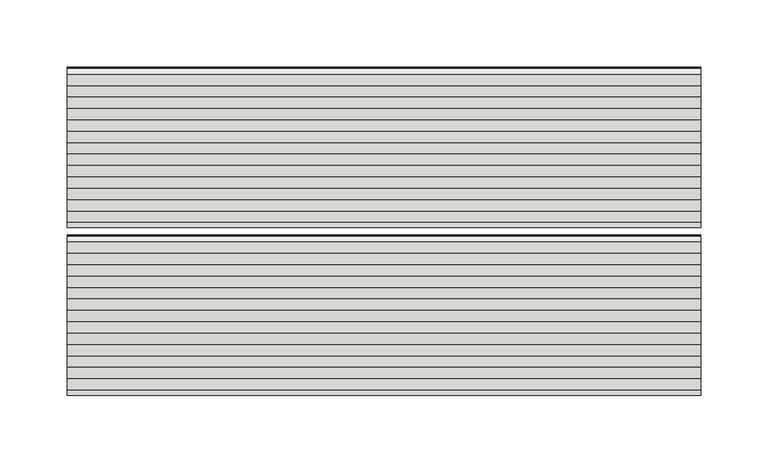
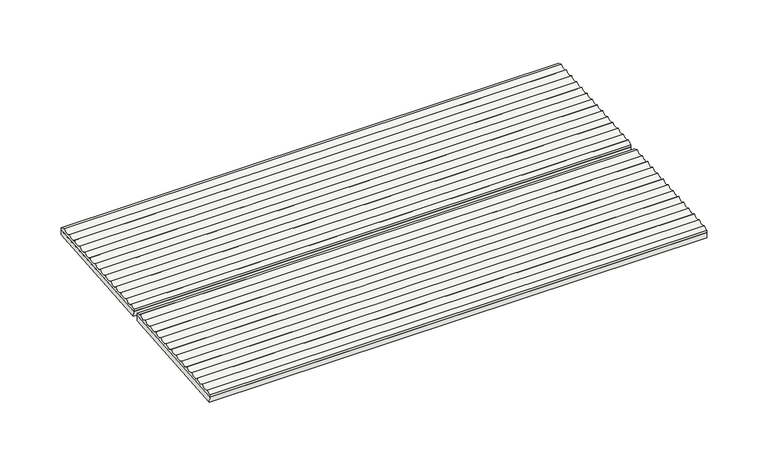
"""IFC4 building model written with IfcOpenShell, lengths in millimetres: slab geometry, ROSA GRES_001 (2 filas) : Piezas 001_Aqua_Blanco_Anti-Slip."""

import ifcopenshell
import ifcopenshell.guid

model = None  # the IFC model being written
_history = None  # IfcOwnerHistory: only IFC2X3 demands one
_inside = {}  # id of a spatial element -> (the spatial element, [elements in it])
_under = {}  # id of a project, library or spatial element -> (it, [spatial elements below it])
_declared = {}  # id of a project -> (the project, [libraries it declares])
_typed = {}  # id of a type object -> (the type object, [elements of that type])
_made_of = {}  # id of a material, layer set ... -> (it, [elements and type objects made of it])


def new_model(schema):
    """Start an empty IFC model of exactly this schema.

    Asked for "IFC4X3", IfcOpenShell would pick the latest addendum, in which some entities
    have other attributes; the version numbers below select the first issue.
    IFC2X3 requires an IfcOwnerHistory on every rooted entity: one is made here for all.
    """
    global model, _history
    if schema == "IFC4X3":
        model = ifcopenshell.file(schema_version=(4, 3, 0, 0))
    else:
        model = ifcopenshell.file(schema=schema)
    _inside.clear()
    _under.clear()
    _declared.clear()
    _typed.clear()
    _made_of.clear()
    _history = None
    if model.schema == "IFC2X3":
        org = make("IfcOrganization", Name="unknown")
        user = make(
            "IfcPersonAndOrganization",
            ThePerson=make("IfcPerson", FamilyName="unknown"),
            TheOrganization=org,
        )
        app = make(
            "IfcApplication",
            ApplicationDeveloper=org,
            Version="unknown",
            ApplicationFullName="unknown",
            ApplicationIdentifier="unknown",
        )
        _history = make(
            "IfcOwnerHistory",
            OwningUser=user,
            OwningApplication=app,
            ChangeAction="ADDED",
            CreationDate=0,
        )
    return model


def make(cls, **values):
    """One entity of the class cls with the attributes given. An attribute that is None is left unset."""
    return model.create_entity(
        cls, **{name: value for name, value in values.items() if value is not None}
    )


def rooted(cls, **values):
    """An entity with a GlobalId (a new one), such as an element, a storey or a relation."""
    return make(cls, GlobalId=ifcopenshell.guid.new(), OwnerHistory=_history, **values)


def si_unit(unit_type, name, prefix=None):
    """IfcSIUnit, for example si_unit("LENGTHUNIT", "METRE", prefix="MILLI")."""
    return make("IfcSIUnit", UnitType=unit_type, Prefix=prefix, Name=name)


def assignment(units):
    """IfcUnitAssignment: the units of a project."""
    return None if units is None else make("IfcUnitAssignment", Units=units)


def point(xyz):
    """IfcCartesianPoint."""
    return None if xyz is None else make("IfcCartesianPoint", Coordinates=xyz)


def direction(xyz):
    """IfcDirection."""
    return None if xyz is None else make("IfcDirection", DirectionRatios=xyz)


def frame(location, z_axis=None, x_axis=None):
    """IfcAxis2Placement3D, a coordinate frame: its origin and axes. An axis left out is left unset."""
    return make(
        "IfcAxis2Placement3D",
        Location=point(location),
        Axis=direction(z_axis),
        RefDirection=direction(x_axis),
    )


def frame_2d(location, x_axis=None):
    """IfcAxis2Placement2D, a coordinate frame in the plane: its origin and x axis."""
    return make(
        "IfcAxis2Placement2D", Location=point(location), RefDirection=direction(x_axis)
    )


def origin():
    """The frame at (0, 0, 0) with its axes left unset."""
    return frame((0.0, 0.0, 0.0))


def place(relative_to, where):
    """IfcLocalPlacement: puts the frame where relative to a parent placement (None: the world)."""
    return make(
        "IfcLocalPlacement", PlacementRelTo=relative_to, RelativePlacement=where
    )


def context(
    kind, dimensions, precision=None, world=None, true_north=None, identifier=None
):
    """IfcGeometricRepresentationContext, for example the 3D "Model" context."""
    return make(
        "IfcGeometricRepresentationContext",
        ContextIdentifier=identifier,
        ContextType=kind,
        CoordinateSpaceDimension=dimensions,
        Precision=precision,
        WorldCoordinateSystem=world,
        TrueNorth=true_north,
    )


def project(units=None, contexts=None):
    """IfcProject with its units and contexts."""
    return rooted(
        "IfcProject",
        Name="project",
        RepresentationContexts=contexts,
        UnitsInContext=assignment(units),
    )


def spatial(cls, under=None, at=None, **own):
    """A site, building, storey or space (cls), placed at a placement, below another one or the project."""
    s = rooted(cls, ObjectPlacement=at, **own)
    if under is not None:
        _under.setdefault(under.id(), (under, []))[1].append(s)
    return s


def polyline(points):
    """IfcPolyline through the points."""
    return make("IfcPolyline", Points=[point(p) for p in points])


def circle_curve(where, radius):
    """IfcCircle in the frame where."""
    return make("IfcCircle", Position=where, Radius=radius)


def trimmed(basis, trim1, trim2, sense, master):
    """IfcTrimmedCurve: the piece of a basis curve between two trims."""
    return make(
        "IfcTrimmedCurve",
        BasisCurve=basis,
        Trim1=trim1,
        Trim2=trim2,
        SenseAgreement=sense,
        MasterRepresentation=master,
    )


def segment(curve, same_sense, transition):
    """IfcCompositeCurveSegment."""
    return make(
        "IfcCompositeCurveSegment",
        Transition=transition,
        SameSense=same_sense,
        ParentCurve=curve,
    )


def composite_curve(segments, self_intersect=None):
    """IfcCompositeCurve: segments joined end to end."""
    return make("IfcCompositeCurve", Segments=segments, SelfIntersect=self_intersect)


def outline(outer, holes=None, kind="AREA"):
    """IfcArbitraryClosedProfileDef: a profile drawn as a closed curve; with holes, ...WithVoids."""
    if holes is None:
        return make("IfcArbitraryClosedProfileDef", ProfileType=kind, OuterCurve=outer)
    return make(
        "IfcArbitraryProfileDefWithVoids",
        ProfileType=kind,
        OuterCurve=outer,
        InnerCurves=holes,
    )


def extrude(swept, where, along, depth):
    """IfcExtrudedAreaSolid: the profile swept, set in the frame where, extruded along a direction by depth."""
    return make(
        "IfcExtrudedAreaSolid",
        SweptArea=swept,
        Position=where,
        ExtrudedDirection=direction(along),
        Depth=depth,
    )


def shape(context_of_items, identifier, shape_type, items):
    """IfcShapeRepresentation: the items that make up one representation, for example the "Body"."""
    return make(
        "IfcShapeRepresentation",
        ContextOfItems=context_of_items,
        RepresentationIdentifier=identifier,
        RepresentationType=shape_type,
        Items=items,
    )


def source(mapping_origin, context_of_items, identifier, shape_type, items):
    """IfcRepresentationMap: a shape defined once, which mapped items show again and again."""
    return make(
        "IfcRepresentationMap",
        MappingOrigin=mapping_origin,
        MappedRepresentation=shape(context_of_items, identifier, shape_type, items),
    )


def transform(
    local_origin,
    x_axis=None,
    y_axis=None,
    z_axis=None,
    scale=None,
    scale2=None,
    scale3=None,
    uniform=True,
):
    """IfcCartesianTransformationOperator3D, or its non-uniform kind. x_axis, y_axis, z_axis: its Axis1, 2, 3."""
    if uniform:
        return make(
            "IfcCartesianTransformationOperator3D",
            Axis1=direction(x_axis),
            Axis2=direction(y_axis),
            LocalOrigin=point(local_origin),
            Scale=scale,
            Axis3=direction(z_axis),
        )
    return make(
        "IfcCartesianTransformationOperator3DnonUniform",
        Axis1=direction(x_axis),
        Axis2=direction(y_axis),
        LocalOrigin=point(local_origin),
        Scale=scale,
        Axis3=direction(z_axis),
        Scale2=scale2,
        Scale3=scale3,
    )


def mapped(mapping_source, mapping_target):
    """IfcMappedItem: shows the shape of a source again, moved by a transform."""
    return make(
        "IfcMappedItem", MappingSource=mapping_source, MappingTarget=mapping_target
    )


def made_of(thing, what):
    """Note that an element or type object is made of a material, layer set ...; save() writes the relation."""
    if what is not None:
        _made_of.setdefault(what.id(), (what, []))[1].append(thing)
    return thing


def element(
    cls,
    number,
    at=None,
    inside=None,
    cuts=None,
    type_object=None,
    material=None,
    context=None,
    identifier="Body",
    shape_type=None,
    held_by="IfcProductDefinitionShape",
    body=None,
    shapes=None,
    **own,
):
    """One element of the class cls, such as IfcWall. Its Tag is "e" and its number.

    at: its placement. inside: the storey or other place that contains it. cuts: it is an
    opening in that element (IfcRelVoidsElement). A single representation is given by context,
    identifier, shape_type and body (its items); several are given by shapes. held_by: the class
    of the entity that holds the representations. save() writes the other relations.
    """
    e = rooted(cls, Tag="e%d" % number, ObjectPlacement=at, **own)
    if body is not None:
        shapes = [shape(context, identifier, shape_type, body)]
    if shapes is not None:
        e.Representation = make(held_by, Representations=shapes)
    if inside is not None:
        _inside.setdefault(inside.id(), (inside, []))[1].append(e)
    if cuts is not None:
        rooted(
            "IfcRelVoidsElement", RelatingBuildingElement=cuts, RelatedOpeningElement=e
        )
    if type_object is not None:
        _typed.setdefault(type_object.id(), (type_object, []))[1].append(e)
    return made_of(e, material)


def aggregate(whole, parts):
    """IfcRelAggregates: a whole, such as a stair, and the parts it consists of."""
    return rooted("IfcRelAggregates", RelatingObject=whole, RelatedObjects=parts)


def save(model, path):
    """Write the relations noted so far, then the file.

    IfcRelAggregates (storeys below a building ...), IfcRelContainedInSpatialStructure (elements
    in a storey), IfcRelDefinesByType, IfcRelAssociatesMaterial and IfcRelDeclares: one each for
    every whole, place, type object, material and project.
    """
    for whole, parts in _under.values():
        aggregate(whole, parts)
    for where, things in _inside.values():
        rooted(
            "IfcRelContainedInSpatialStructure",
            RelatedElements=things,
            RelatingStructure=where,
        )
    for kind, things in _typed.values():
        rooted("IfcRelDefinesByType", RelatedObjects=things, RelatingType=kind)
    for what, things in _made_of.values():
        rooted("IfcRelAssociatesMaterial", RelatedObjects=things, RelatingMaterial=what)
    for by, libraries in _declared.values():
        rooted("IfcRelDeclares", RelatingContext=by, RelatedDefinitions=libraries)
    model.write(path)


def slab_8a001f0c(model_context):
    return source(origin(), model_context, "Body", "SweptSolid", [
        extrude(outline(polyline([(59.4997999, 0.0), (-59.4998, 0.0), (-59.4998, 470.1434404), (59.4997999, 470.1434404), (59.4997999, 0.0)])), frame((470.1434404, 183.3614376, 204.5238637), z_axis=(0.0, -0.08112705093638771, 0.9967037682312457), x_axis=(0.0, 0.9967037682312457, 0.08112705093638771)), (0.0, 0.0, 1.0), 5.0),
        extrude(outline(polyline([(59.4998, 0.0), (-59.4997999, 0.0), (-59.4997999, 470.1434404), (59.4998, 470.1434404), (59.4998, 0.0)])), frame((470.1434404, 307.9490099, 214.6647126), z_axis=(0.0, -0.08112705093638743, 0.9967037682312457), x_axis=(0.0, 0.9967037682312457, 0.08112705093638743)), (0.0, 0.0, 1.0), 5.0),
        extrude(outline(composite_curve([segment(polyline([(242.2594772, 214.3344258), (123.6521274, 204.6803392), (123.4389282, 207.2996439)]), True, "CONTINUOUS"), segment(trimmed(circle_curve(frame_2d((122.9853249, 212.8724843)), 5.5912705), [point((123.4389282, 207.2996439))], [point((127.5160501, 209.5960785))], True, "CARTESIAN"), True, "CONTINUOUS"), segment(trimmed(circle_curve(frame_2d((131.4572785, 213.5620619)), 5.5912705), [point((127.5160501, 209.5960785))], [point((135.9880037, 210.2856561))], True, "CARTESIAN"), True, "CONTINUOUS"), segment(trimmed(circle_curve(frame_2d((139.929232, 214.2516395)), 5.5912705), [point((135.9880037, 210.2856561))], [point((144.4599572, 210.9752337))], True, "CARTESIAN"), True, "CONTINUOUS"), segment(trimmed(circle_curve(frame_2d((148.4011856, 214.9412171)), 5.5912705), [point((144.4599572, 210.9752337))], [point((152.9319108, 211.6648113))], True, "CARTESIAN"), True, "CONTINUOUS"), segment(trimmed(circle_curve(frame_2d((156.8731392, 215.6307947)), 5.5912705), [point((152.9319108, 211.6648113))], [point((161.4038643, 212.3543889))], True, "CARTESIAN"), True, "CONTINUOUS"), segment(trimmed(circle_curve(frame_2d((165.3450927, 216.3203723)), 5.5912705), [point((161.4038643, 212.3543889))], [point((169.8758179, 213.0439666))], True, "CARTESIAN"), True, "CONTINUOUS"), segment(trimmed(circle_curve(frame_2d((173.8170463, 217.00995)), 5.5912705), [point((169.8758179, 213.0439666))], [point((178.3477714, 213.7335442))], True, "CARTESIAN"), True, "CONTINUOUS"), segment(trimmed(circle_curve(frame_2d((182.2889998, 217.6995276)), 5.5912705), [point((178.3477714, 213.7335442))], [point((186.819725, 214.4231218))], True, "CARTESIAN"), True, "CONTINUOUS"), segment(trimmed(circle_curve(frame_2d((190.7609534, 218.3891052)), 5.5912705), [point((186.819725, 214.4231218))], [point((195.2916785, 215.1126994))], True, "CARTESIAN"), True, "CONTINUOUS"), segment(trimmed(circle_curve(frame_2d((199.2329069, 219.0786828)), 5.5912705), [point((195.2916785, 215.1126994))], [point((203.7636321, 215.802277))], True, "CARTESIAN"), True, "CONTINUOUS"), segment(trimmed(circle_curve(frame_2d((207.7048605, 219.7682604)), 5.5912705), [point((203.7636321, 215.802277))], [point((212.2355856, 216.4918546))], True, "CARTESIAN"), True, "CONTINUOUS"), segment(trimmed(circle_curve(frame_2d((216.176814, 220.457838)), 5.5912705), [point((212.2355856, 216.4918546))], [point((220.7075392, 217.1814322))], True, "CARTESIAN"), True, "CONTINUOUS"), segment(trimmed(circle_curve(frame_2d((224.6487676, 221.1474157)), 5.5912705), [point((220.7075392, 217.1814322))], [point((229.1794928, 217.8710099))], True, "CARTESIAN"), True, "CONTINUOUS"), segment(trimmed(circle_curve(frame_2d((233.1207211, 221.8369933)), 5.5912705), [point((229.1794928, 217.8710099))], [point((237.6514463, 218.5605875))], True, "CARTESIAN"), True, "CONTINUOUS"), segment(trimmed(circle_curve(frame_2d((241.5926747, 222.5265709)), 5.5912705), [point((237.6514463, 218.5605875))], [point((242.046278, 216.9537305))], True, "CARTESIAN"), True, "CONTINUOUS"), segment(polyline([(242.046278, 216.9537305), (242.2594772, 214.3344258)]), True, "CONTINUOUS")], self_intersect=False)), frame((0.0, 0.0, 0.0), z_axis=(1.0, 0.0, 0.0), x_axis=(0.0, 1.0, 0.0)), (0.0, 0.0, 1.0), 470.1434404),
        extrude(outline(composite_curve([segment(polyline([(366.8470495, 224.4752747), (248.2396998, 214.8211881), (248.0265006, 217.4404928)]), True, "CONTINUOUS"), segment(trimmed(circle_curve(frame_2d((247.5728973, 223.0133332)), 5.5912705), [point((248.0265006, 217.4404928))], [point((252.1036225, 219.7369274))], True, "CARTESIAN"), True, "CONTINUOUS"), segment(trimmed(circle_curve(frame_2d((256.0448508, 223.7029108)), 5.5912705), [point((252.1036225, 219.7369274))], [point((260.575576, 220.426505))], True, "CARTESIAN"), True, "CONTINUOUS"), segment(trimmed(circle_curve(frame_2d((264.5168044, 224.3924884)), 5.5912705), [point((260.575576, 220.426505))], [point((269.0475296, 221.1160826))], True, "CARTESIAN"), True, "CONTINUOUS"), segment(trimmed(circle_curve(frame_2d((272.9887579, 225.082066)), 5.5912705), [point((269.0475296, 221.1160826))], [point((277.5194831, 221.8056602))], True, "CARTESIAN"), True, "CONTINUOUS"), segment(trimmed(circle_curve(frame_2d((281.4607115, 225.7716436)), 5.5912705), [point((277.5194831, 221.8056602))], [point((285.9914367, 222.4952379))], True, "CARTESIAN"), True, "CONTINUOUS"), segment(trimmed(circle_curve(frame_2d((289.9326651, 226.4612213)), 5.5912705), [point((285.9914367, 222.4952379))], [point((294.4633902, 223.1848155))], True, "CARTESIAN"), True, "CONTINUOUS"), segment(trimmed(circle_curve(frame_2d((298.4046186, 227.1507989)), 5.5912705), [point((294.4633902, 223.1848155))], [point((302.9353438, 223.8743931))], True, "CARTESIAN"), True, "CONTINUOUS"), segment(trimmed(circle_curve(frame_2d((306.8765722, 227.8403765)), 5.5912705), [point((302.9353438, 223.8743931))], [point((311.4072973, 224.5639707))], True, "CARTESIAN"), True, "CONTINUOUS"), segment(trimmed(circle_curve(frame_2d((315.3485257, 228.5299541)), 5.5912705), [point((311.4072973, 224.5639707))], [point((319.8792509, 225.2535483))], True, "CARTESIAN"), True, "CONTINUOUS"), segment(trimmed(circle_curve(frame_2d((323.8204793, 229.2195317)), 5.5912705), [point((319.8792509, 225.2535483))], [point((328.3512044, 225.9431259))], True, "CARTESIAN"), True, "CONTINUOUS"), segment(trimmed(circle_curve(frame_2d((332.2924328, 229.9091093)), 5.5912705), [point((328.3512044, 225.9431259))], [point((336.823158, 226.6327035))], True, "CARTESIAN"), True, "CONTINUOUS"), segment(trimmed(circle_curve(frame_2d((340.7643864, 230.5986869)), 5.5912705), [point((336.823158, 226.6327035))], [point((345.2951115, 227.3222812))], True, "CARTESIAN"), True, "CONTINUOUS"), segment(trimmed(circle_curve(frame_2d((349.2363399, 231.2882646)), 5.5912705), [point((345.2951115, 227.3222812))], [point((353.7670651, 228.0118588))], True, "CARTESIAN"), True, "CONTINUOUS"), segment(trimmed(circle_curve(frame_2d((357.7082935, 231.9778422)), 5.5912705), [point((353.7670651, 228.0118588))], [point((362.2390187, 228.7014364))], True, "CARTESIAN"), True, "CONTINUOUS"), segment(trimmed(circle_curve(frame_2d((366.180247, 232.6674198)), 5.5912705), [point((362.2390187, 228.7014364))], [point((366.6338503, 227.0945794))], True, "CARTESIAN"), True, "CONTINUOUS"), segment(polyline([(366.6338503, 227.0945794), (366.8470495, 224.4752747)]), True, "CONTINUOUS")], self_intersect=False)), frame((0.0, 0.0, 0.0), z_axis=(1.0, 0.0, 0.0), x_axis=(0.0, 1.0, 0.0)), (0.0, 0.0, 1.0), 470.1434404),
    ])


if __name__ == "__main__":
    model = new_model("IFC4")
    model_context = context("Model", 3, world=origin())
    ifc_project = project(units=[si_unit("LENGTHUNIT", "METRE", prefix="MILLI")], contexts=[model_context])
    site = spatial("IfcSite", under=ifc_project)
    building = spatial("IfcBuilding", under=site)
    placement = place(None, origin())
    slab_shape = slab_8a001f0c(model_context)
    element("IfcSlab", 1, ObjectType="ROSA GRES_001 (2 filas) : Piezas 001_Aqua_Blanco_Anti-Slip", at=placement, inside=building, context=model_context, shape_type="MappedRepresentation", body=[
        mapped(slab_shape, transform((0.0, 0.0, 0.0), x_axis=(1.0, 0.0, 0.0), y_axis=(0.0, 1.0, 0.0), z_axis=(0.0, 0.0, 1.0))),
    ])
    save(model, "model.ifc")
